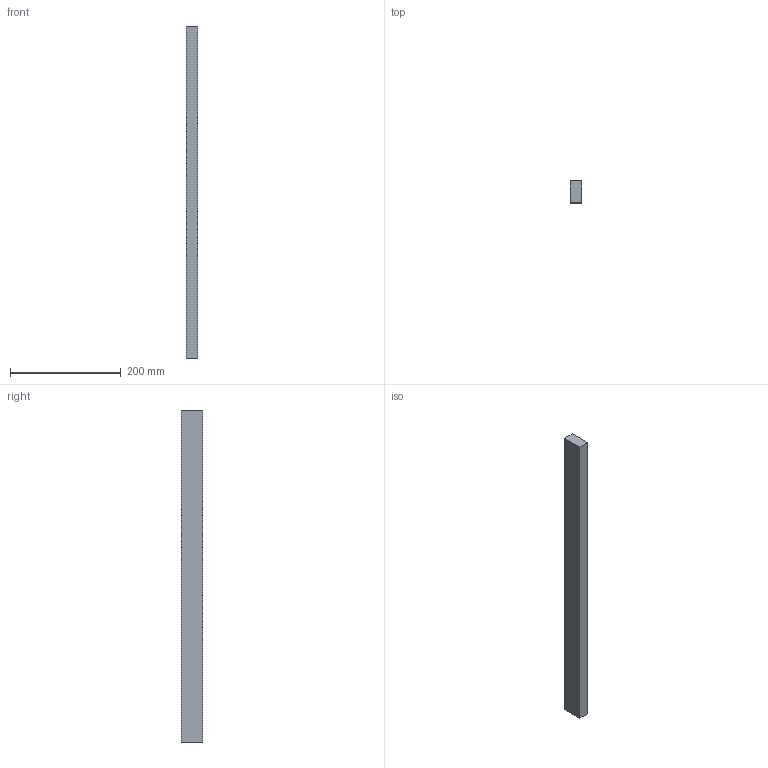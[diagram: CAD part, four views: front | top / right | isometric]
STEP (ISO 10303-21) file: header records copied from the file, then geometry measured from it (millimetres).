
FILE_DESCRIPTION(('Open CASCADE Model'),'2;1');
FILE_NAME('Open CASCADE Shape Model','2026-11-14T16:01:48',('Author'),( 'Open CASCADE'),'Open CASCADE STEP processor 7.9','Open CASCADE 7.9' ,'Unknown');
FILE_SCHEMA(('AUTOMOTIVE_DESIGN { 1 0 10303 214 1 1 1 1 }'));
Length unit declared in the file: millimetre
Products named in the file (1): Open CASCADE STEP translator 7.9 119
Bounding box: 20 x 39.6 x 600 mm (x, y, z)
Volume: 475200 mm3; surface area: 73104 mm2
Topology: 1 solids, 1 shells, 6 faces, 12 edges, 8 vertices
Faces by surface type: plane 6
Entity records: 322 total; most frequent: CARTESIAN_POINT 51, DIRECTION 50, LINE 36, VECTOR 36, ORIENTED_EDGE 24, PCURVE 24, DEFINITIONAL_REPRESENTATION 24, EDGE_CURVE 12
